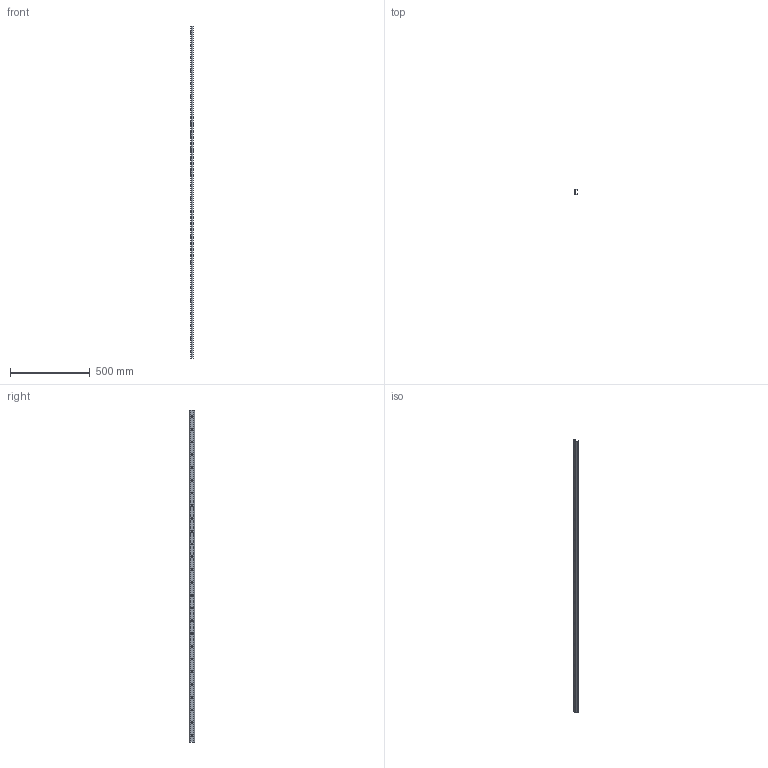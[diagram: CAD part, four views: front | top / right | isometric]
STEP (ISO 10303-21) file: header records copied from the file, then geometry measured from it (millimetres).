
FILE_DESCRIPTION (( 'STEP AP203' ), '1' );
FILE_NAME ('L1970.30U-2080.step', '2026-01-14T10:55:12', ( '' ), ( '' ), 'SwSTEP 2.0', 'SolidWorks 2019', '' );
FILE_SCHEMA (( 'CONFIG_CONTROL_DESIGN' ));
Length unit declared in the file: millimetre
Products named in the file (1): L1970.30U-2080
Bounding box: 16 x 31.8 x 2080 mm (x, y, z)
Volume: 422485.7 mm3; surface area: 231295.3 mm2
Topology: 1 solids, 1 shells, 144 faces, 426 edges, 284 vertices
Faces by surface type: cylinder 82, plane 62
Entity records: 5055 total; most frequent: DIRECTION 880, CARTESIAN_POINT 855, ORIENTED_EDGE 852, EDGE_CURVE 426, AXIS2_PLACEMENT_3D 309, VERTEX_POINT 284, VECTOR 262, LINE 262
